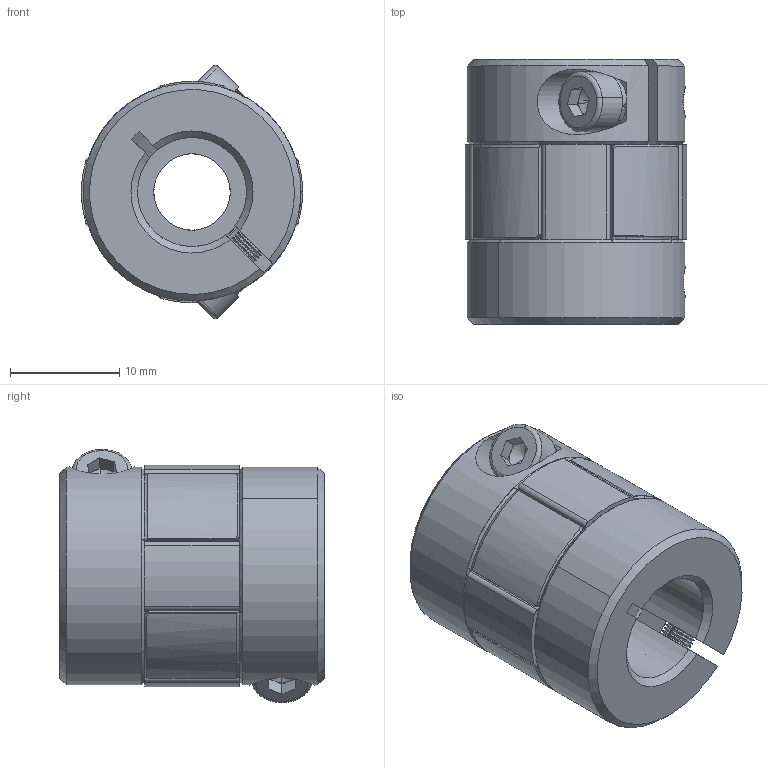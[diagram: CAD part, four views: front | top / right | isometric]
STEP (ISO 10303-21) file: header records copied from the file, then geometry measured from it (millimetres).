
FILE_DESCRIPTION (( 'STEP AP203' ), '1' );
FILE_NAME ('LF-B-D20L25-7-10.STEP', '2021-10-21T01:32:30', ( '' ), ( '' ), 'SwSTEP 2.0', 'SolidWorks 2018', '' );
FILE_SCHEMA (( 'CONFIG_CONTROL_DESIGN' ));
Length unit declared in the file: millimetre
Products named in the file (1): LF-B-D20L25-7-10
Bounding box: 20.31 x 24.3 x 23.23 mm (x, y, z)
Volume: 6158.7 mm3; surface area: 3592.9 mm2
Topology: 1 solids, 1 shells, 428 faces, 1075 edges, 638 vertices
Faces by surface type: cylinder 165, cone 158, plane 93, torus 12
Entity records: 13145 total; most frequent: CARTESIAN_POINT 2740, DIRECTION 2316, ORIENTED_EDGE 2142, EDGE_CURVE 1071, AXIS2_PLACEMENT_3D 952, VERTEX_POINT 638, CIRCLE 523, EDGE_LOOP 443
